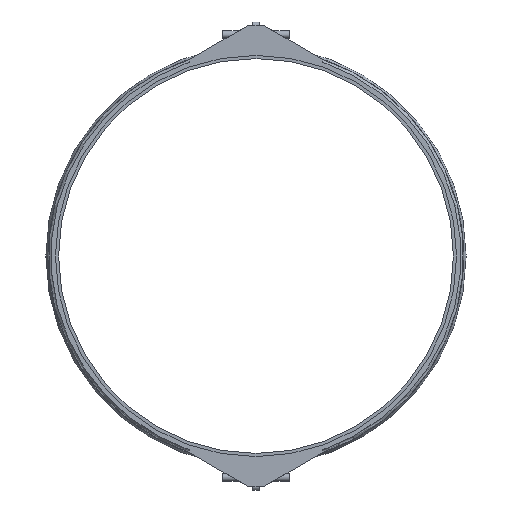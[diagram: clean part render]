
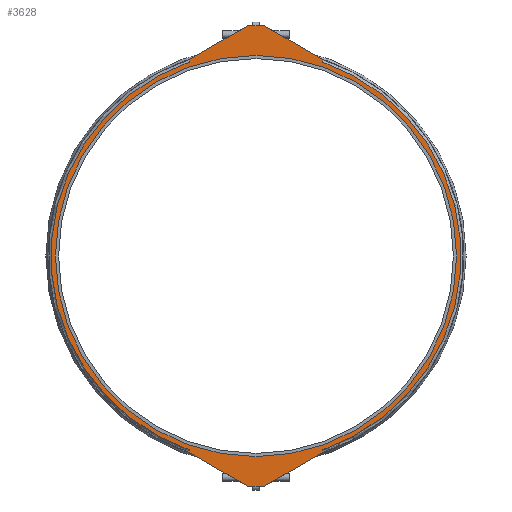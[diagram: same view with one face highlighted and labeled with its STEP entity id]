
A CAD part, left-side view. The second image highlights one B-rep face of the part: STEP entity #3628.
In plain terms, the highlighted planar face has unit normal (-1, 0, 0).
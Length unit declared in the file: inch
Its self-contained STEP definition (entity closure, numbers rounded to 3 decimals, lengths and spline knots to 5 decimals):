
#110=FACE_BOUND('',#658,.T.);
#246=PLANE('',#3949);
#437=FACE_OUTER_BOUND('',#657,.T.);
#657=EDGE_LOOP('',(#3180,#3181,#3182,#3183,#3184,#3185,#3186,#3187,#3188,
#3189,#3190,#3191,#3192,#3193,#3194,#3195,#3196,#3197,#3198,#3199));
#658=EDGE_LOOP('',(#3200,#3201));
#777=LINE('',#5235,#1120);
#785=LINE('',#5265,#1128);
#790=LINE('',#5289,#1133);
#793=LINE('',#5324,#1136);
#794=LINE('',#5343,#1137);
#948=LINE('',#5932,#1291);
#951=LINE('',#5937,#1294);
#960=LINE('',#5963,#1303);
#962=LINE('',#5970,#1305);
#966=LINE('',#5979,#1309);
#1120=VECTOR('',#4241,0.3937);
#1128=VECTOR('',#4263,0.3937);
#1133=VECTOR('',#4278,0.3937);
#1136=VECTOR('',#4291,0.3937);
#1137=VECTOR('',#4294,0.3937);
#1291=VECTOR('',#4684,0.3937);
#1294=VECTOR('',#4689,0.3937);
#1303=VECTOR('',#4714,0.3937);
#1305=VECTOR('',#4722,0.3937);
#1309=VECTOR('',#4732,0.3937);
#1369=CIRCLE('',#3736,0.063);
#1370=CIRCLE('',#3738,0.125);
#1371=CIRCLE('',#3741,0.125);
#1372=CIRCLE('',#3743,0.063);
#1374=CIRCLE('',#3748,24.535);
#1375=CIRCLE('',#3750,24.535);
#1414=CIRCLE('',#3871,0.063);
#1415=CIRCLE('',#3874,0.063);
#1416=CIRCLE('',#3877,0.125);
#1417=CIRCLE('',#3880,0.125);
#1453=CIRCLE('',#3947,24.);
#1454=CIRCLE('',#3948,24.);
#1550=VERTEX_POINT('',#5232);
#1551=VERTEX_POINT('',#5234);
#1561=VERTEX_POINT('',#5262);
#1562=VERTEX_POINT('',#5264);
#1564=VERTEX_POINT('',#5279);
#1565=VERTEX_POINT('',#5283);
#1566=VERTEX_POINT('',#5287);
#1568=VERTEX_POINT('',#5303);
#1569=VERTEX_POINT('',#5307);
#1570=VERTEX_POINT('',#5326);
#1574=VERTEX_POINT('',#5363);
#1575=VERTEX_POINT('',#5382);
#1713=VERTEX_POINT('',#5931);
#1714=VERTEX_POINT('',#5935);
#1722=VERTEX_POINT('',#5957);
#1723=VERTEX_POINT('',#5961);
#1724=VERTEX_POINT('',#5965);
#1725=VERTEX_POINT('',#5969);
#1726=VERTEX_POINT('',#5973);
#1727=VERTEX_POINT('',#5978);
#1769=VERTEX_POINT('',#6123);
#1770=VERTEX_POINT('',#6125);
#1910=EDGE_CURVE('',#1550,#1551,#777,.T.);
#1923=EDGE_CURVE('',#1561,#1562,#785,.T.);
#1926=EDGE_CURVE('',#1551,#1564,#1369,.T.);
#1929=EDGE_CURVE('',#1565,#1550,#1370,.T.);
#1931=EDGE_CURVE('',#1566,#1565,#790,.T.);
#1933=EDGE_CURVE('',#1562,#1566,#1371,.T.);
#1936=EDGE_CURVE('',#1568,#1561,#1372,.T.);
#1938=EDGE_CURVE('',#1569,#1568,#793,.T.);
#1940=EDGE_CURVE('',#1564,#1570,#794,.T.);
#1945=EDGE_CURVE('',#1569,#1574,#1374,.T.);
#1946=EDGE_CURVE('',#1575,#1570,#1375,.T.);
#2150=EDGE_CURVE('',#1713,#1575,#948,.T.);
#2153=EDGE_CURVE('',#1574,#1714,#951,.T.);
#2164=EDGE_CURVE('',#1714,#1722,#1414,.T.);
#2166=EDGE_CURVE('',#1722,#1723,#960,.T.);
#2167=EDGE_CURVE('',#1724,#1713,#1415,.T.);
#2169=EDGE_CURVE('',#1725,#1724,#962,.T.);
#2171=EDGE_CURVE('',#1726,#1725,#1416,.T.);
#2174=EDGE_CURVE('',#1727,#1726,#966,.T.);
#2176=EDGE_CURVE('',#1723,#1727,#1417,.T.);
#2246=EDGE_CURVE('',#1770,#1769,#1453,.T.);
#2247=EDGE_CURVE('',#1769,#1770,#1454,.T.);
#3180=ORIENTED_EDGE('',*,*,#1946,.T.);
#3181=ORIENTED_EDGE('',*,*,#1940,.F.);
#3182=ORIENTED_EDGE('',*,*,#1926,.F.);
#3183=ORIENTED_EDGE('',*,*,#1910,.F.);
#3184=ORIENTED_EDGE('',*,*,#1929,.F.);
#3185=ORIENTED_EDGE('',*,*,#1931,.F.);
#3186=ORIENTED_EDGE('',*,*,#1933,.F.);
#3187=ORIENTED_EDGE('',*,*,#1923,.F.);
#3188=ORIENTED_EDGE('',*,*,#1936,.F.);
#3189=ORIENTED_EDGE('',*,*,#1938,.F.);
#3190=ORIENTED_EDGE('',*,*,#1945,.T.);
#3191=ORIENTED_EDGE('',*,*,#2153,.T.);
#3192=ORIENTED_EDGE('',*,*,#2164,.T.);
#3193=ORIENTED_EDGE('',*,*,#2166,.T.);
#3194=ORIENTED_EDGE('',*,*,#2176,.T.);
#3195=ORIENTED_EDGE('',*,*,#2174,.T.);
#3196=ORIENTED_EDGE('',*,*,#2171,.T.);
#3197=ORIENTED_EDGE('',*,*,#2169,.T.);
#3198=ORIENTED_EDGE('',*,*,#2167,.T.);
#3199=ORIENTED_EDGE('',*,*,#2150,.T.);
#3200=ORIENTED_EDGE('',*,*,#2246,.T.);
#3201=ORIENTED_EDGE('',*,*,#2247,.T.);
#3628=ADVANCED_FACE('',(#437,#110),#246,.T.);
#3736=AXIS2_PLACEMENT_3D('',#5280,#4267,#4268);
#3738=AXIS2_PLACEMENT_3D('',#5285,#4273,#4274);
#3741=AXIS2_PLACEMENT_3D('',#5292,#4282,#4283);
#3743=AXIS2_PLACEMENT_3D('',#5305,#4287,#4288);
#3748=AXIS2_PLACEMENT_3D('',#5380,#4299,#4300);
#3750=AXIS2_PLACEMENT_3D('',#5383,#4303,#4304);
#3871=AXIS2_PLACEMENT_3D('',#5959,#4709,#4710);
#3874=AXIS2_PLACEMENT_3D('',#5966,#4717,#4718);
#3877=AXIS2_PLACEMENT_3D('',#5974,#4726,#4727);
#3880=AXIS2_PLACEMENT_3D('',#5982,#4736,#4737);
#3947=AXIS2_PLACEMENT_3D('',#6126,#4904,#4905);
#3948=AXIS2_PLACEMENT_3D('',#6127,#4906,#4907);
#3949=AXIS2_PLACEMENT_3D('',#6128,#4908,#4909);
#4241=DIRECTION('',(0.,0.865,0.501));
#4263=DIRECTION('',(0.,0.865,-0.501));
#4267=DIRECTION('center_axis',(1.,0.,0.));
#4268=DIRECTION('ref_axis',(0.,-1.,0.));
#4273=DIRECTION('center_axis',(1.,0.,0.));
#4274=DIRECTION('ref_axis',(0.,-0.501,0.865));
#4278=DIRECTION('',(0.,1.,0.));
#4282=DIRECTION('center_axis',(1.,0.,0.));
#4283=DIRECTION('ref_axis',(0.,0.,1.));
#4287=DIRECTION('center_axis',(1.,0.,0.));
#4288=DIRECTION('ref_axis',(0.,0.501,0.865));
#4291=DIRECTION('',(0.,0.,-1.));
#4294=DIRECTION('',(0.,0.,1.));
#4299=DIRECTION('center_axis',(-1.,0.,0.));
#4300=DIRECTION('ref_axis',(0.,0.,1.));
#4303=DIRECTION('center_axis',(-1.,0.,0.));
#4304=DIRECTION('ref_axis',(0.,0.,1.));
#4684=DIRECTION('',(0.,0.,-1.));
#4689=DIRECTION('',(0.,0.,1.));
#4709=DIRECTION('center_axis',(-1.,0.,0.));
#4710=DIRECTION('ref_axis',(0.,0.501,-0.865));
#4714=DIRECTION('',(0.,0.865,0.501));
#4717=DIRECTION('center_axis',(-1.,0.,0.));
#4718=DIRECTION('ref_axis',(0.,-1.,0.));
#4722=DIRECTION('',(0.,0.865,-0.501));
#4726=DIRECTION('center_axis',(-1.,0.,0.));
#4727=DIRECTION('ref_axis',(0.,-0.501,-0.865));
#4732=DIRECTION('',(0.,1.,0.));
#4736=DIRECTION('center_axis',(-1.,0.,0.));
#4737=DIRECTION('ref_axis',(0.,0.,-1.));
#4904=DIRECTION('center_axis',(1.,0.,0.));
#4905=DIRECTION('ref_axis',(0.,0.,-1.));
#4906=DIRECTION('center_axis',(1.,0.,0.));
#4907=DIRECTION('ref_axis',(0.,0.,-1.));
#4908=DIRECTION('center_axis',(-1.,0.,0.));
#4909=DIRECTION('ref_axis',(0.,0.,1.));
#5232=CARTESIAN_POINT('',(-3.315,1.02907,-27.53316));
#5234=CARTESIAN_POINT('',(-3.315,7.96858,-23.5123));
#5235=CARTESIAN_POINT('',(-3.315,1.02907,-27.53316));
#5262=CARTESIAN_POINT('',(-3.315,-7.96858,-23.5123));
#5264=CARTESIAN_POINT('',(-3.315,-1.02907,-27.53316));
#5265=CARTESIAN_POINT('',(-3.315,-7.96858,-23.5123));
#5279=CARTESIAN_POINT('',(-3.315,8.,-23.45779));
#5280=CARTESIAN_POINT('Origin',(-3.315,7.937,-23.45779));
#5283=CARTESIAN_POINT('',(-3.315,0.9664,-27.55));
#5285=CARTESIAN_POINT('Origin',(-3.315,0.9664,-27.425));
#5287=CARTESIAN_POINT('',(-3.315,-0.9664,-27.55));
#5289=CARTESIAN_POINT('',(-3.315,0.,-27.55));
#5292=CARTESIAN_POINT('Origin',(-3.315,-0.9664,-27.425));
#5303=CARTESIAN_POINT('',(-3.315,-8.,-23.45779));
#5305=CARTESIAN_POINT('Origin',(-3.315,-7.937,-23.45779));
#5307=CARTESIAN_POINT('',(-3.315,-8.,-23.1941));
#5324=CARTESIAN_POINT('',(-3.315,-8.,-23.1941));
#5326=CARTESIAN_POINT('',(-3.315,8.,-23.1941));
#5343=CARTESIAN_POINT('',(-3.315,8.,-23.45779));
#5363=CARTESIAN_POINT('',(-3.315,-8.,23.1941));
#5380=CARTESIAN_POINT('Origin',(-3.315,0.,0.));
#5382=CARTESIAN_POINT('',(-3.315,8.,23.1941));
#5383=CARTESIAN_POINT('Origin',(-3.315,0.,0.));
#5931=CARTESIAN_POINT('',(-3.315,8.,23.45779));
#5932=CARTESIAN_POINT('',(-3.315,8.,23.45779));
#5935=CARTESIAN_POINT('',(-3.315,-8.,23.45779));
#5937=CARTESIAN_POINT('',(-3.315,-8.,23.1941));
#5957=CARTESIAN_POINT('',(-3.315,-7.96858,23.5123));
#5959=CARTESIAN_POINT('Origin',(-3.315,-7.937,23.45779));
#5961=CARTESIAN_POINT('',(-3.315,-1.02907,27.53316));
#5963=CARTESIAN_POINT('',(-3.315,-7.96858,23.5123));
#5965=CARTESIAN_POINT('',(-3.315,7.96858,23.5123));
#5966=CARTESIAN_POINT('Origin',(-3.315,7.937,23.45779));
#5969=CARTESIAN_POINT('',(-3.315,1.02907,27.53316));
#5970=CARTESIAN_POINT('',(-3.315,1.02907,27.53316));
#5973=CARTESIAN_POINT('',(-3.315,0.9664,27.55));
#5974=CARTESIAN_POINT('Origin',(-3.315,0.9664,27.425));
#5978=CARTESIAN_POINT('',(-3.315,-0.9664,27.55));
#5979=CARTESIAN_POINT('',(-3.315,0.,27.55));
#5982=CARTESIAN_POINT('Origin',(-3.315,-0.9664,27.425));
#6123=CARTESIAN_POINT('',(-3.315,-24.,0.));
#6125=CARTESIAN_POINT('',(-3.315,24.,0.));
#6126=CARTESIAN_POINT('Origin',(-3.315,0.,0.));
#6127=CARTESIAN_POINT('Origin',(-3.315,0.,0.));
#6128=CARTESIAN_POINT('Origin',(-3.315,24.85,0.));
